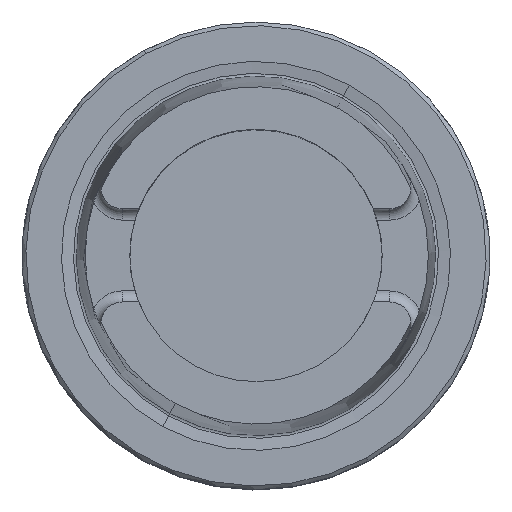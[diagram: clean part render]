
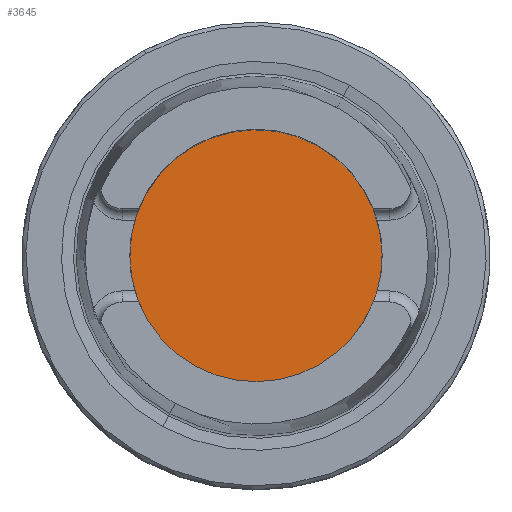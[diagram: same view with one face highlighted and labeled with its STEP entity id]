
A CAD part, top view. The second image highlights one B-rep face of the part: STEP entity #3645.
In plain terms, the highlighted planar face has unit normal (0, 0, 1).
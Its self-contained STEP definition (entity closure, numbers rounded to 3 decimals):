
#172=AXIS2_PLACEMENT_3D('Circle Axis2P3D',#170,#171,$) ;
#376=AXIS2_PLACEMENT_3D('Circle Axis2P3D',#374,#375,$) ;
#3639=AXIS2_PLACEMENT_3D('Plane Axis2P3D',#3636,#3637,#3638) ;
#167=CARTESIAN_POINT('Vertex',(-8.15,-14.919,-10.)) ;
#170=CARTESIAN_POINT('Axis2P3D Location',(0.,0.,-10.)) ;
#174=CARTESIAN_POINT('Vertex',(8.15,14.919,-10.)) ;
#374=CARTESIAN_POINT('Axis2P3D Location',(0.,0.,-10.)) ;
#3636=CARTESIAN_POINT('Axis2P3D Location',(0.,-15.75,-10.)) ;
#171=DIRECTION('Axis2P3D Direction',(0.,0.,-1.)) ;
#375=DIRECTION('Axis2P3D Direction',(0.,0.,-1.)) ;
#3637=DIRECTION('Axis2P3D Direction',(0.,0.,-1.)) ;
#3638=DIRECTION('Axis2P3D XDirection',(-1.,0.,0.)) ;
#3642=ORIENTED_EDGE('',*,*,#176,.T.) ;
#3643=ORIENTED_EDGE('',*,*,#378,.T.) ;
#3645=ADVANCED_FACE('NO_CUT',(#3644),#3640,.F.) ;
#173=CIRCLE('generated circle',#172,17.) ;
#377=CIRCLE('generated circle',#376,17.) ;
#176=EDGE_CURVE('',#175,#168,#173,.F.) ;
#378=EDGE_CURVE('',#168,#175,#377,.F.) ;
#3641=EDGE_LOOP('',(#3642,#3643)) ;
#3644=FACE_OUTER_BOUND('',#3641,.T.) ;
#3640=PLANE('',#3639) ;
#168=VERTEX_POINT('',#167) ;
#175=VERTEX_POINT('',#174) ;
